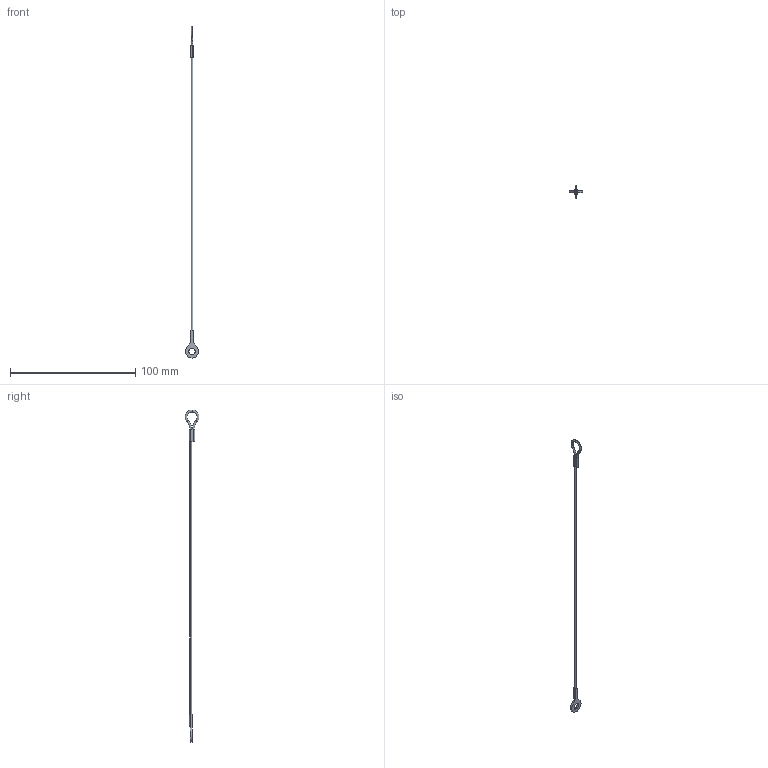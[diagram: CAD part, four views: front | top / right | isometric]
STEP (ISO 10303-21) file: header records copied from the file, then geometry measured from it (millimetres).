
FILE_DESCRIPTION (( 'STEP AP203' ), '1' );
FILE_NAME ('LA1075.I06-254N1.step', '2026-03-23T16:45:26', ( '' ), ( '' ), 'SwSTEP 2.0', 'SolidWorks 2019', '' );
FILE_SCHEMA (( 'CONFIG_CONTROL_DESIGN' ));
Length unit declared in the file: millimetre
Products named in the file (1): LA1075.I06-254N1
Bounding box: 10.41 x 11.16 x 264.8 mm (x, y, z)
Volume: 765.1 mm3; surface area: 1711.6 mm2
Topology: 1 solids, 1 shells, 32 faces, 74 edges, 46 vertices
Faces by surface type: plane 14, cylinder 10, torus 8
Entity records: 1003 total; most frequent: DIRECTION 180, CARTESIAN_POINT 153, ORIENTED_EDGE 148, EDGE_CURVE 74, AXIS2_PLACEMENT_3D 73, VERTEX_POINT 46, CIRCLE 40, EDGE_LOOP 38
